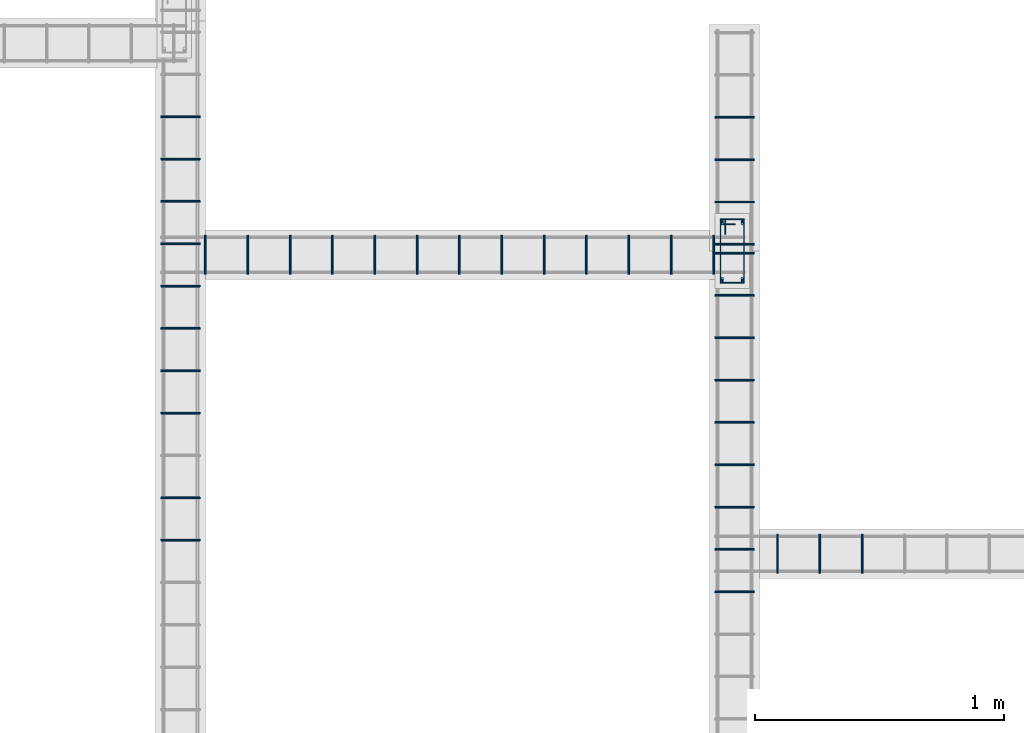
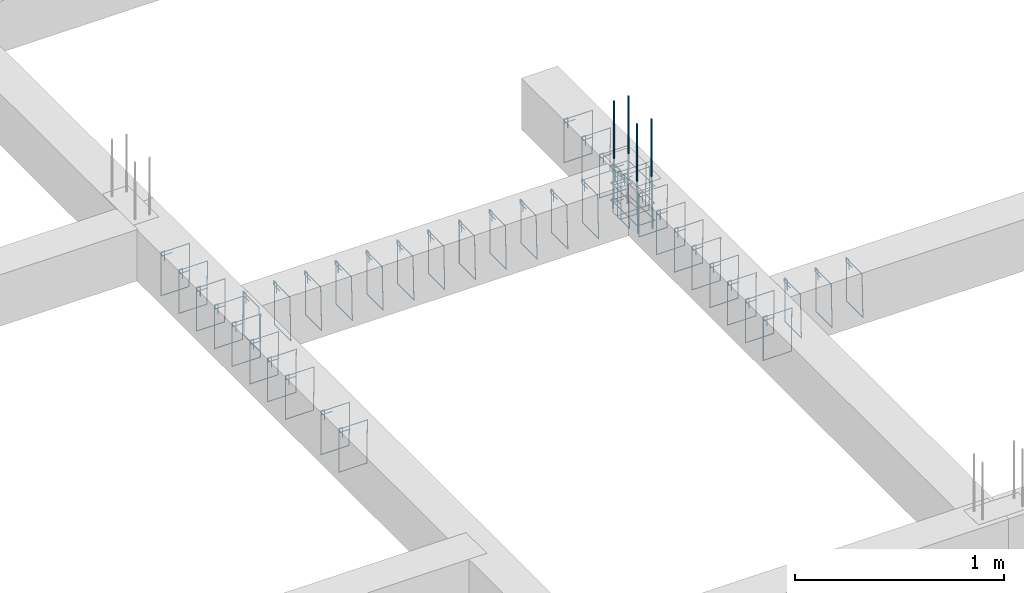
# One storey, part 45 of 150: 46 reinforcing bars.
"""IFC4 building model written with IfcOpenShell, lengths in centimetres."""

from ifc_helpers import new_model, entity, si_unit, derived_unit, frame, origin_with_axes, place, context, project, spatial, source, transform, mapped, element, save


model = new_model("IFC4")

# Units and contexts
model_context = context("Model", 3, precision=1e-05, world=origin_with_axes(), identifier="Body")
ifc_project = project(units=[si_unit("LENGTHUNIT", "METRE", prefix="CENTI"), si_unit("VOLUMEUNIT", "CUBIC_METRE"), si_unit("AREAUNIT", "SQUARE_METRE"), si_unit("POWERUNIT", "WATT"), si_unit("LUMINOUSFLUXUNIT", "LUMEN"), si_unit("ELECTRICCURRENTUNIT", "AMPERE"), si_unit("PRESSUREUNIT", "PASCAL", prefix="KILO"), si_unit("MASSUNIT", "GRAM", prefix="KILO"), si_unit("PLANEANGLEUNIT", "RADIAN"), derived_unit("VOLUMETRICFLOWRATEUNIT", [(si_unit("LENGTHUNIT", "METRE"), 3), (si_unit("TIMEUNIT", "SECOND"), -1)])], contexts=[model_context])

# Site, building, storey
site_placement = place(None, frame((-4000.0, 0.0, 0.0), z_axis=(0.0, 0.0, 1.0), x_axis=(1.0, 0.0, 0.0)))
site = spatial("IfcSite", under=ifc_project, at=site_placement, Name="PADRÃO")
building_placement = place(site_placement, frame((0.0, 0.0, -14.0)))
building = spatial("IfcBuilding", under=site, at=building_placement, Name="CRECHE PRÉ-ESCOLA TIPO 2")
placement = place(building_placement, origin_with_axes())
storey_placement = place(placement, frame((0.0, 0.0, 30.0), z_axis=(0.0, 0.0, 1.0), x_axis=(1.0, 0.0, 0.0)))
storey = spatial("IfcBuildingStorey", under=building, at=storey_placement, Name="VIGA BALDRAME", CompositionType="ELEMENT", Elevation=16.0)

# Reinforcing bars
shared_shape_1 = source(origin_with_axes(), model_context, "Body", "AdvancedSweptSolid", [
    entity("IfcSweptDiskSolid", entity("IfcCompositeCurve", [entity("IfcCompositeCurveSegment", "CONTINUOUS", True, entity("IfcPolyline", [entity("IfcCartesianPoint", [4.25, 21.75, 0.0]), entity("IfcCartesianPoint", [4.25, 27.75, 0.0])])), entity("IfcCompositeCurveSegment", "CONTINUOUS", True, entity("IfcPolyline", [entity("IfcCartesianPoint", [4.25, 27.75, 0.0]), entity("IfcCartesianPoint", [2.25, 27.75, 0.0])])), entity("IfcCompositeCurveSegment", "CONTINUOUS", True, entity("IfcPolyline", [entity("IfcCartesianPoint", [2.25, 27.75, 0.0]), entity("IfcCartesianPoint", [2.25, 2.25, 0.0])])), entity("IfcCompositeCurveSegment", "CONTINUOUS", True, entity("IfcPolyline", [entity("IfcCartesianPoint", [2.25, 2.25, 0.0]), entity("IfcCartesianPoint", [11.75, 2.25, 0.0])])), entity("IfcCompositeCurveSegment", "CONTINUOUS", True, entity("IfcPolyline", [entity("IfcCartesianPoint", [11.75, 2.25, 0.0]), entity("IfcCartesianPoint", [11.75, 27.75, -0.5])])), entity("IfcCompositeCurveSegment", "CONTINUOUS", True, entity("IfcPolyline", [entity("IfcCartesianPoint", [11.75, 27.75, -0.5]), entity("IfcCartesianPoint", [2.25, 27.75, -0.5])])), entity("IfcCompositeCurveSegment", "CONTINUOUS", True, entity("IfcPolyline", [entity("IfcCartesianPoint", [2.25, 27.75, -0.5]), entity("IfcCartesianPoint", [2.25, 25.75, -0.5])])), entity("IfcCompositeCurveSegment", "CONTINUOUS", True, entity("IfcPolyline", [entity("IfcCartesianPoint", [2.25, 25.75, -0.5]), entity("IfcCartesianPoint", [8.25, 25.75, -0.5])]))], False), 0.25),
])
for number, where, z_axis, x_axis, name in (
    (1, (2740.52, 734.08, -25.0), (0.0, 0.0, 1.0), (1.0, 0.0, 0.0), "P131 - Estribo"),
    (2, (2740.52, 734.08, -5.0), (0.0, 0.0, 1.0), (1.0, 0.0, 0.0), "P131 - Estribo"),
    (3, (2740.52, 734.08, -15.0), (0.0, 0.0, 1.0), (1.0, 0.0, 0.0), "P131 - Estribo"),
):
    element("IfcReinforcingBar", number, at=place(storey_placement, frame(where, z_axis=z_axis, x_axis=x_axis)), inside=storey, Name=name, BarLength=0.0, CrossSectionArea=1.9634954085e-05, NominalDiameter=0.5, PredefinedType="MAIN", context=model_context, shape_type="MappedRepresentation", body=[
        mapped(shared_shape_1, transform((0.0, 0.0, 0.0), scale=1.0)),
    ])
shared_shape_2 = source(origin_with_axes(), model_context, "Body", "AdvancedSweptSolid", [
    entity("IfcSweptDiskSolid", entity("IfcCompositeCurve", [entity("IfcCompositeCurveSegment", "CONTINUOUS", True, entity("IfcPolyline", [entity("IfcCartesianPoint", [2.0, -6.0, 0.0]), entity("IfcCartesianPoint", [2.0, 0.0, 0.0])])), entity("IfcCompositeCurveSegment", "CONTINUOUS", True, entity("IfcPolyline", [entity("IfcCartesianPoint", [2.0, 0.0, 0.0]), entity("IfcCartesianPoint", [0.0, 0.0, 0.0])])), entity("IfcCompositeCurveSegment", "CONTINUOUS", True, entity("IfcPolyline", [entity("IfcCartesianPoint", [0.0, 0.0, 0.0]), entity("IfcCartesianPoint", [0.0, -25.5, 0.0])])), entity("IfcCompositeCurveSegment", "CONTINUOUS", True, entity("IfcPolyline", [entity("IfcCartesianPoint", [0.0, -25.5, 0.0]), entity("IfcCartesianPoint", [15.5, -25.5, 0.0])])), entity("IfcCompositeCurveSegment", "CONTINUOUS", True, entity("IfcPolyline", [entity("IfcCartesianPoint", [15.5, -25.5, 0.0]), entity("IfcCartesianPoint", [15.5, 0.0, 0.5])])), entity("IfcCompositeCurveSegment", "CONTINUOUS", True, entity("IfcPolyline", [entity("IfcCartesianPoint", [15.5, 0.0, 0.5]), entity("IfcCartesianPoint", [0.0, 0.0, 0.5])])), entity("IfcCompositeCurveSegment", "CONTINUOUS", True, entity("IfcPolyline", [entity("IfcCartesianPoint", [0.0, 0.0, 0.5]), entity("IfcCartesianPoint", [0.0, -2.0, 0.5])])), entity("IfcCompositeCurveSegment", "CONTINUOUS", True, entity("IfcPolyline", [entity("IfcCartesianPoint", [0.0, -2.0, 0.5]), entity("IfcCartesianPoint", [6.0, -2.0, 0.5])]))], False), 0.25),
])
for number, where, z_axis, x_axis, name in (
    (4, (2518.25, 803.27, -2.25), (0.0, -1.0, 0.0), (1.0, 0.0, 0.0), "V196 - Estribo"),
    (5, (2518.25, 684.27, -2.25), (0.0, -1.0, 0.0), (1.0, 0.0, 0.0), "V196 - Estribo"),
    (6, (2518.25, 701.27, -2.25), (0.0, -1.0, 0.0), (1.0, 0.0, 0.0), "V196 - Estribo"),
    (7, (2518.25, 735.27, -2.25), (0.0, -1.0, 0.0), (1.0, 0.0, 0.0), "V196 - Estribo"),
    (8, (2518.25, 752.27, -2.25), (0.0, -1.0, 0.0), (1.0, 0.0, 0.0), "V196 - Estribo"),
    (9, (2518.25, 769.27, -2.25), (0.0, -1.0, 0.0), (1.0, 0.0, 0.0), "V196 - Estribo"),
    (10, (2518.25, 786.27, -2.25), (0.0, -1.0, 0.0), (1.0, 0.0, 0.0), "V196 - Estribo"),
    (11, (2518.25, 650.27, -2.25), (0.0, -1.0, 0.0), (1.0, 0.0, 0.0), "V196 - Estribo"),
    (12, (2518.25, 633.27, -2.25), (0.0, -1.0, 0.0), (1.0, 0.0, 0.0), "V196 - Estribo"),
    (13, (2518.25, 718.27, -2.25), (0.0, -1.0, 0.0), (1.0, 0.0, 0.0), "V196 - Estribo"),
):
    element("IfcReinforcingBar", number, at=place(storey_placement, frame(where, z_axis=z_axis, x_axis=x_axis)), inside=storey, Name=name, BarLength=0.0, CrossSectionArea=1.9634954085e-05, NominalDiameter=0.5, PredefinedType="MAIN", context=model_context, shape_type="MappedRepresentation", body=[
        mapped(shared_shape_2, transform((0.0, 0.0, 0.0), scale=1.0)),
    ])
shared_shape_3 = source(origin_with_axes(), model_context, "Body", "AdvancedSweptSolid", [
    entity("IfcSweptDiskSolid", entity("IfcCompositeCurve", [entity("IfcCompositeCurveSegment", "CONTINUOUS", True, entity("IfcPolyline", [entity("IfcCartesianPoint", [2.0, -6.0, 0.0]), entity("IfcCartesianPoint", [2.0, 0.0, 0.0])])), entity("IfcCompositeCurveSegment", "CONTINUOUS", True, entity("IfcPolyline", [entity("IfcCartesianPoint", [2.0, 0.0, 0.0]), entity("IfcCartesianPoint", [0.0, 0.0, 0.0])])), entity("IfcCompositeCurveSegment", "CONTINUOUS", True, entity("IfcPolyline", [entity("IfcCartesianPoint", [0.0, 0.0, 0.0]), entity("IfcCartesianPoint", [0.0, -25.5, 0.0])])), entity("IfcCompositeCurveSegment", "CONTINUOUS", True, entity("IfcPolyline", [entity("IfcCartesianPoint", [0.0, -25.5, 0.0]), entity("IfcCartesianPoint", [15.5, -25.5, 0.0])])), entity("IfcCompositeCurveSegment", "CONTINUOUS", True, entity("IfcPolyline", [entity("IfcCartesianPoint", [15.5, -25.5, 0.0]), entity("IfcCartesianPoint", [15.5, 0.0, 0.5])])), entity("IfcCompositeCurveSegment", "CONTINUOUS", True, entity("IfcPolyline", [entity("IfcCartesianPoint", [15.5, 0.0, 0.5]), entity("IfcCartesianPoint", [0.0, 0.0, 0.5])])), entity("IfcCompositeCurveSegment", "CONTINUOUS", True, entity("IfcPolyline", [entity("IfcCartesianPoint", [0.0, 0.0, 0.5]), entity("IfcCartesianPoint", [0.0, -2.0, 0.5])])), entity("IfcCompositeCurveSegment", "CONTINUOUS", True, entity("IfcPolyline", [entity("IfcCartesianPoint", [0.0, -2.0, 0.5]), entity("IfcCartesianPoint", [6.0, -2.0, 0.5])]))], False), 0.25),
])
for number, where, z_axis, x_axis, name in (
    (14, (2740.71, 731.545, -2.25), (0.0, -1.0, 0.0), (1.0, 0.0, 0.0), "V203 - Estribo"),
    (15, (2740.71, 612.545, -2.25), (0.0, -1.0, 0.0), (1.0, 0.0, 0.0), "V203 - Estribo"),
    (16, (2740.71, 629.545, -2.25), (0.0, -1.0, 0.0), (1.0, 0.0, 0.0), "V203 - Estribo"),
    (17, (2740.71, 646.545, -2.25), (0.0, -1.0, 0.0), (1.0, 0.0, 0.0), "V203 - Estribo"),
    (18, (2740.71, 663.545, -2.25), (0.0, -1.0, 0.0), (1.0, 0.0, 0.0), "V203 - Estribo"),
    (19, (2740.71, 680.545, -2.25), (0.0, -1.0, 0.0), (1.0, 0.0, 0.0), "V203 - Estribo"),
    (20, (2740.71, 697.545, -2.25), (0.0, -1.0, 0.0), (1.0, 0.0, 0.0), "V203 - Estribo"),
    (21, (2740.71, 714.545, -2.25), (0.0, -1.0, 0.0), (1.0, 0.0, 0.0), "V203 - Estribo"),
    (22, (2740.71, 748.545, -2.25), (0.0, -1.0, 0.0), (1.0, 0.0, 0.0), "V203 - Estribo"),
):
    element("IfcReinforcingBar", number, at=place(storey_placement, frame(where, z_axis=z_axis, x_axis=x_axis)), inside=storey, Name=name, BarLength=0.0, CrossSectionArea=1.9634954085e-05, NominalDiameter=0.5, PredefinedType="MAIN", context=model_context, shape_type="MappedRepresentation", body=[
        mapped(shared_shape_3, transform((0.0, 0.0, 0.0), scale=1.0)),
    ])
shared_shape_4 = source(origin_with_axes(), model_context, "Body", "AdvancedSweptSolid", [
    entity("IfcSweptDiskSolid", entity("IfcCompositeCurve", [entity("IfcCompositeCurveSegment", "CONTINUOUS", True, entity("IfcPolyline", [entity("IfcCartesianPoint", [2.0, -6.0, 0.0]), entity("IfcCartesianPoint", [2.0, 0.0, 0.0])])), entity("IfcCompositeCurveSegment", "CONTINUOUS", True, entity("IfcPolyline", [entity("IfcCartesianPoint", [2.0, 0.0, 0.0]), entity("IfcCartesianPoint", [0.0, 0.0, 0.0])])), entity("IfcCompositeCurveSegment", "CONTINUOUS", True, entity("IfcPolyline", [entity("IfcCartesianPoint", [0.0, 0.0, 0.0]), entity("IfcCartesianPoint", [0.0, -25.5, 0.0])])), entity("IfcCompositeCurveSegment", "CONTINUOUS", True, entity("IfcPolyline", [entity("IfcCartesianPoint", [0.0, -25.5, 0.0]), entity("IfcCartesianPoint", [15.5, -25.5, 0.0])])), entity("IfcCompositeCurveSegment", "CONTINUOUS", True, entity("IfcPolyline", [entity("IfcCartesianPoint", [15.5, -25.5, 0.0]), entity("IfcCartesianPoint", [15.5, 0.0, 0.5])])), entity("IfcCompositeCurveSegment", "CONTINUOUS", True, entity("IfcPolyline", [entity("IfcCartesianPoint", [15.5, 0.0, 0.5]), entity("IfcCartesianPoint", [0.0, 0.0, 0.5])])), entity("IfcCompositeCurveSegment", "CONTINUOUS", True, entity("IfcPolyline", [entity("IfcCartesianPoint", [0.0, 0.0, 0.5]), entity("IfcCartesianPoint", [0.0, -2.0, 0.5])])), entity("IfcCompositeCurveSegment", "CONTINUOUS", True, entity("IfcPolyline", [entity("IfcCartesianPoint", [0.0, -2.0, 0.5]), entity("IfcCartesianPoint", [6.0, -2.0, 0.5])]))], False), 0.25),
])
for number, where, z_axis, x_axis, name in (
    (23, (2740.71, 786.04, -2.25), (0.0, -1.0, 0.0), (1.0, 0.0, 0.0), "V203 - Estribo"),
    (24, (2740.71, 803.04, -2.25), (0.0, -1.0, 0.0), (1.0, 0.0, 0.0), "V203 - Estribo"),
    (25, (2740.71, 769.04, -2.25), (0.0, -1.0, 0.0), (1.0, 0.0, 0.0), "V203 - Estribo"),
    (26, (2740.71, 752.04, -2.25), (0.0, -1.0, 0.0), (1.0, 0.0, 0.0), "V203 - Estribo"),
):
    element("IfcReinforcingBar", number, at=place(storey_placement, frame(where, z_axis=z_axis, x_axis=x_axis)), inside=storey, Name=name, BarLength=0.0, CrossSectionArea=1.9634954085e-05, NominalDiameter=0.5, PredefinedType="MAIN", context=model_context, shape_type="MappedRepresentation", body=[
        mapped(shared_shape_4, transform((0.0, 0.0, 0.0), scale=1.0)),
    ])
shared_shape_5 = source(origin_with_axes(), model_context, "Body", "AdvancedSweptSolid", [
    entity("IfcSweptDiskSolid", entity("IfcCompositeCurve", [entity("IfcCompositeCurveSegment", "CONTINUOUS", True, entity("IfcPolyline", [entity("IfcCartesianPoint", [2.0, -6.0, 0.0]), entity("IfcCartesianPoint", [2.0, 0.0, 0.0])])), entity("IfcCompositeCurveSegment", "CONTINUOUS", True, entity("IfcPolyline", [entity("IfcCartesianPoint", [2.0, 0.0, 0.0]), entity("IfcCartesianPoint", [0.0, 0.0, 0.0])])), entity("IfcCompositeCurveSegment", "CONTINUOUS", True, entity("IfcPolyline", [entity("IfcCartesianPoint", [0.0, 0.0, 0.0]), entity("IfcCartesianPoint", [0.0, -25.5, 0.0])])), entity("IfcCompositeCurveSegment", "CONTINUOUS", True, entity("IfcPolyline", [entity("IfcCartesianPoint", [0.0, -25.5, 0.0]), entity("IfcCartesianPoint", [15.5, -25.5, 0.0])])), entity("IfcCompositeCurveSegment", "CONTINUOUS", True, entity("IfcPolyline", [entity("IfcCartesianPoint", [15.5, -25.5, 0.0]), entity("IfcCartesianPoint", [15.5, 0.0, 0.5])])), entity("IfcCompositeCurveSegment", "CONTINUOUS", True, entity("IfcPolyline", [entity("IfcCartesianPoint", [15.5, 0.0, 0.5]), entity("IfcCartesianPoint", [0.0, 0.0, 0.5])])), entity("IfcCompositeCurveSegment", "CONTINUOUS", True, entity("IfcPolyline", [entity("IfcCartesianPoint", [0.0, 0.0, 0.5]), entity("IfcCartesianPoint", [0.0, -2.0, 0.5])])), entity("IfcCompositeCurveSegment", "CONTINUOUS", True, entity("IfcPolyline", [entity("IfcCartesianPoint", [0.0, -2.0, 0.5]), entity("IfcCartesianPoint", [6.0, -2.0, 0.5])]))], False), 0.25),
])
for number, where, z_axis, x_axis, name in (
    (27, (2765.955, 635.33, -2.25), (-1.0, 0.0, 0.0), (0.0, -1.0, 0.0), "V148 - Estribo"),
    (28, (2782.955, 635.33, -2.25), (-1.0, 0.0, 0.0), (0.0, -1.0, 0.0), "V148 - Estribo"),
    (29, (2799.955, 635.33, -2.25), (-1.0, 0.0, 0.0), (0.0, -1.0, 0.0), "V148 - Estribo"),
):
    element("IfcReinforcingBar", number, at=place(storey_placement, frame(where, z_axis=z_axis, x_axis=x_axis)), inside=storey, Name=name, BarLength=0.0, CrossSectionArea=1.9634954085e-05, NominalDiameter=0.5, PredefinedType="MAIN", context=model_context, shape_type="MappedRepresentation", body=[
        mapped(shared_shape_5, transform((0.0, 0.0, 0.0), scale=1.0)),
    ])
shared_shape_6 = source(origin_with_axes(), model_context, "Body", "AdvancedSweptSolid", [
    entity("IfcSweptDiskSolid", entity("IfcCompositeCurve", [entity("IfcCompositeCurveSegment", "CONTINUOUS", True, entity("IfcPolyline", [entity("IfcCartesianPoint", [2.0, -6.0, 0.0]), entity("IfcCartesianPoint", [2.0, 0.0, 0.0])])), entity("IfcCompositeCurveSegment", "CONTINUOUS", True, entity("IfcPolyline", [entity("IfcCartesianPoint", [2.0, 0.0, 0.0]), entity("IfcCartesianPoint", [0.0, 0.0, 0.0])])), entity("IfcCompositeCurveSegment", "CONTINUOUS", True, entity("IfcPolyline", [entity("IfcCartesianPoint", [0.0, 0.0, 0.0]), entity("IfcCartesianPoint", [0.0, -25.5, 0.0])])), entity("IfcCompositeCurveSegment", "CONTINUOUS", True, entity("IfcPolyline", [entity("IfcCartesianPoint", [0.0, -25.5, 0.0]), entity("IfcCartesianPoint", [15.5, -25.5, 0.0])])), entity("IfcCompositeCurveSegment", "CONTINUOUS", True, entity("IfcPolyline", [entity("IfcCartesianPoint", [15.5, -25.5, 0.0]), entity("IfcCartesianPoint", [15.5, 0.0, 0.5])])), entity("IfcCompositeCurveSegment", "CONTINUOUS", True, entity("IfcPolyline", [entity("IfcCartesianPoint", [15.5, 0.0, 0.5]), entity("IfcCartesianPoint", [0.0, 0.0, 0.5])])), entity("IfcCompositeCurveSegment", "CONTINUOUS", True, entity("IfcPolyline", [entity("IfcCartesianPoint", [0.0, 0.0, 0.5]), entity("IfcCartesianPoint", [0.0, -2.0, 0.5])])), entity("IfcCompositeCurveSegment", "CONTINUOUS", True, entity("IfcPolyline", [entity("IfcCartesianPoint", [0.0, -2.0, 0.5]), entity("IfcCartesianPoint", [6.0, -2.0, 0.5])]))], False), 0.25),
])
for number, where, z_axis, x_axis, name in (
    (30, (2672.26, 755.34, -2.25), (-1.0, 0.0, 0.0), (0.0, -1.0, 0.0), "V147 - Estribo"),
    (31, (2621.26, 755.34, -2.25), (-1.0, 0.0, 0.0), (0.0, -1.0, 0.0), "V147 - Estribo"),
    (32, (2604.26, 755.34, -2.25), (-1.0, 0.0, 0.0), (0.0, -1.0, 0.0), "V147 - Estribo"),
    (33, (2587.26, 755.34, -2.25), (-1.0, 0.0, 0.0), (0.0, -1.0, 0.0), "V147 - Estribo"),
    (34, (2638.26, 755.34, -2.25), (-1.0, 0.0, 0.0), (0.0, -1.0, 0.0), "V147 - Estribo"),
    (35, (2570.26, 755.34, -2.25), (-1.0, 0.0, 0.0), (0.0, -1.0, 0.0), "V147 - Estribo"),
    (36, (2553.26, 755.34, -2.25), (-1.0, 0.0, 0.0), (0.0, -1.0, 0.0), "V147 - Estribo"),
    (37, (2706.26, 755.34, -2.25), (-1.0, 0.0, 0.0), (0.0, -1.0, 0.0), "V147 - Estribo"),
    (38, (2723.26, 755.34, -2.25), (-1.0, 0.0, 0.0), (0.0, -1.0, 0.0), "V147 - Estribo"),
    (39, (2740.26, 755.34, -2.25), (-1.0, 0.0, 0.0), (0.0, -1.0, 0.0), "V147 - Estribo"),
    (40, (2536.26, 755.34, -2.25), (-1.0, 0.0, 0.0), (0.0, -1.0, 0.0), "V147 - Estribo"),
    (41, (2655.26, 755.34, -2.25), (-1.0, 0.0, 0.0), (0.0, -1.0, 0.0), "V147 - Estribo"),
    (42, (2689.26, 755.34, -2.25), (-1.0, 0.0, 0.0), (0.0, -1.0, 0.0), "V147 - Estribo"),
):
    element("IfcReinforcingBar", number, at=place(storey_placement, frame(where, z_axis=z_axis, x_axis=x_axis)), inside=storey, Name=name, BarLength=0.0, CrossSectionArea=1.9634954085e-05, NominalDiameter=0.5, PredefinedType="MAIN", context=model_context, shape_type="MappedRepresentation", body=[
        mapped(shared_shape_6, transform((0.0, 0.0, 0.0), scale=1.0)),
    ])
reinforcing_bar_1_placement = place(storey_placement, frame((2751.52, 737.580138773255, 33.3573001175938), z_axis=(0.0, 0.0, 1.0), x_axis=(1.0, 0.0, 0.0)))
element("IfcReinforcingBar", 43, at=reinforcing_bar_1_placement, inside=storey, Name="P131 - Longitudinal", BarLength=0.0, CrossSectionArea=7.853981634e-05, NominalDiameter=1.0, PredefinedType="MAIN", context=model_context, shape_type="AdvancedSweptSolid", body=[
    entity("IfcSweptDiskSolid", entity("IfcCompositeCurve", [entity("IfcCompositeCurveSegment", "CONTINUOUS", True, entity("IfcPolyline", [entity("IfcCartesianPoint", [0.0, -0.50013877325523, -63.3573001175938]), entity("IfcCartesianPoint", [0.0, 0.49986122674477, -33.3573001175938])])), entity("IfcCompositeCurveSegment", "CONTINUOUS", True, entity("IfcPolyline", [entity("IfcCartesianPoint", [0.0, 0.49986122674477, -33.3573001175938]), entity("IfcCartesianPoint", [0.0, 0.49986122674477, 0.0])]))], False), 0.5),
])
for number, where, z_axis, x_axis, name in (
    (44, (2743.52, 760.579861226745, 33.3573001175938), (0.0, 0.0, 1.0), (1.0, 0.0, 0.0), "P131 - Longitudinal"),
    (45, (2751.52, 760.579861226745, 33.3573001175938), (0.0, 0.0, 1.0), (1.0, 0.0, 0.0), "P131 - Longitudinal"),
):
    element("IfcReinforcingBar", number, at=place(storey_placement, frame(where, z_axis=z_axis, x_axis=x_axis)), inside=storey, Name=name, BarLength=0.0, CrossSectionArea=7.853981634e-05, NominalDiameter=1.0, PredefinedType="MAIN", context=model_context, shape_type="AdvancedSweptSolid", body=[
        entity("IfcSweptDiskSolid", entity("IfcCompositeCurve", [entity("IfcCompositeCurveSegment", "CONTINUOUS", True, entity("IfcPolyline", [entity("IfcCartesianPoint", [0.0, 0.50013877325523, -63.3573001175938]), entity("IfcCartesianPoint", [0.0, -0.49986122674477, -33.3573001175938])])), entity("IfcCompositeCurveSegment", "CONTINUOUS", True, entity("IfcPolyline", [entity("IfcCartesianPoint", [0.0, -0.49986122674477, -33.3573001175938]), entity("IfcCartesianPoint", [0.0, -0.49986122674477, 0.0])]))], False), 0.5),
    ])
reinforcing_bar_2_placement = place(storey_placement, frame((2743.52, 737.580138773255, 33.3573001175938), z_axis=(0.0, 0.0, 1.0), x_axis=(1.0, 0.0, 0.0)))
element("IfcReinforcingBar", 46, at=reinforcing_bar_2_placement, inside=storey, Name="P131 - Longitudinal", BarLength=0.0, CrossSectionArea=7.853981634e-05, NominalDiameter=1.0, PredefinedType="MAIN", context=model_context, shape_type="AdvancedSweptSolid", body=[
    entity("IfcSweptDiskSolid", entity("IfcCompositeCurve", [entity("IfcCompositeCurveSegment", "CONTINUOUS", True, entity("IfcPolyline", [entity("IfcCartesianPoint", [0.0, -0.50013877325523, -63.3573001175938]), entity("IfcCartesianPoint", [0.0, 0.49986122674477, -33.3573001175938])])), entity("IfcCompositeCurveSegment", "CONTINUOUS", True, entity("IfcPolyline", [entity("IfcCartesianPoint", [0.0, 0.49986122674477, -33.3573001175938]), entity("IfcCartesianPoint", [0.0, 0.49986122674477, 0.0])]))], False), 0.5),
])

save(model, "model.ifc")
